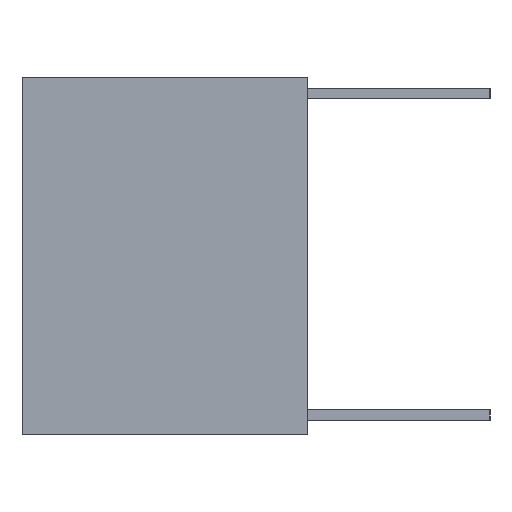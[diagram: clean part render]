
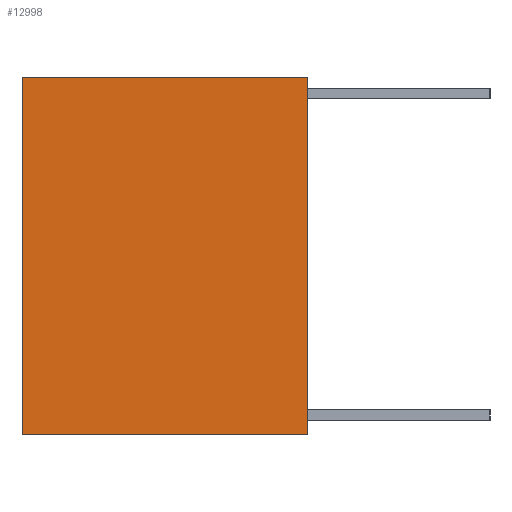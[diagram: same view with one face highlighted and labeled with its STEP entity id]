
A CAD part, left-side view. The second image highlights one B-rep face of the part: STEP entity #12998.
In plain terms, the highlighted planar face has unit normal (-1, 0, 0).
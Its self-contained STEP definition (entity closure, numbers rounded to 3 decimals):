
#42=DIRECTION('',(0.,-1.,0.));
#43=VECTOR('',#42,4.);
#44=CARTESIAN_POINT('',(-7.1,2.,-2.5));
#45=LINE('',#44,#43);
#370=DIRECTION('',(0.,0.,1.));
#371=VECTOR('',#370,5.);
#372=CARTESIAN_POINT('',(-7.1,-2.,-2.5));
#373=LINE('',#372,#371);
#1227=DIRECTION('',(0.,-1.,0.));
#1228=VECTOR('',#1227,4.);
#1229=CARTESIAN_POINT('',(-7.1,2.,2.5));
#1230=LINE('',#1229,#1228);
#1247=DIRECTION('',(0.,0.,1.));
#1248=VECTOR('',#1247,5.);
#1249=CARTESIAN_POINT('',(-7.1,2.,-2.5));
#1250=LINE('',#1249,#1248);
#9047=CARTESIAN_POINT('',(-7.1,2.,-2.5));
#9048=CARTESIAN_POINT('',(-7.1,-2.,-2.5));
#9049=VERTEX_POINT('',#9047);
#9050=VERTEX_POINT('',#9048);
#9051=CARTESIAN_POINT('',(-7.1,2.,2.5));
#9052=CARTESIAN_POINT('',(-7.1,-2.,2.5));
#9053=VERTEX_POINT('',#9051);
#9054=VERTEX_POINT('',#9052);
#12987=CARTESIAN_POINT('',(-7.1,2.,-2.5));
#12988=DIRECTION('',(-1.,0.,0.));
#12989=DIRECTION('',(0.,-1.,0.));
#12990=AXIS2_PLACEMENT_3D('',#12987,#12988,#12989);
#12991=PLANE('',#12990);
#12992=ORIENTED_EDGE('',*,*,#11844,.F.);
#12993=ORIENTED_EDGE('',*,*,#12968,.T.);
#12994=ORIENTED_EDGE('',*,*,#12940,.T.);
#12995=ORIENTED_EDGE('',*,*,#12061,.F.);
#12996=EDGE_LOOP('',(#12992,#12993,#12994,#12995));
#12997=FACE_OUTER_BOUND('',#12996,.F.);
#12998=ADVANCED_FACE('',(#12997),#12991,.T.);
#11844=EDGE_CURVE('',#9049,#9050,#45,.T.);
#12061=EDGE_CURVE('',#9050,#9054,#373,.T.);
#12940=EDGE_CURVE('',#9053,#9054,#1230,.T.);
#12968=EDGE_CURVE('',#9049,#9053,#1250,.T.);
